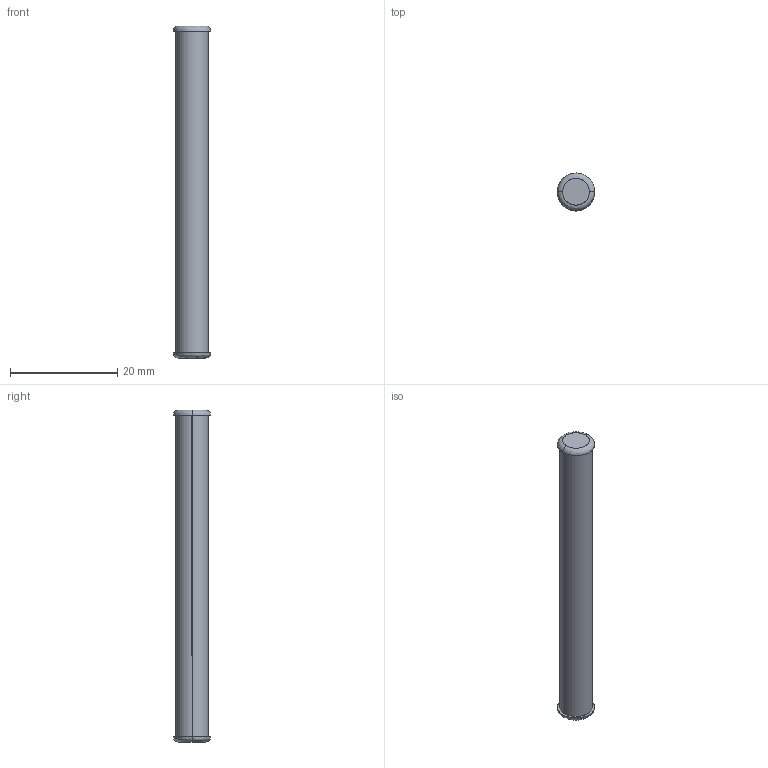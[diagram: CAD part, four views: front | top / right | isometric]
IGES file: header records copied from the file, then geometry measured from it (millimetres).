
Start section: SolidWorks IGES file using analytic representation for surfaces
Global section: file name: Z:\Mes documents\ATAO iges\Gamme CC\CC 485\axe 485.IGS; native system: SolidWorks 2013; preprocessor: SolidWorks 2013; author: cbrechard; date: 151124.181442; units: millimetre
Bounding box: 7 x 7 x 62 mm (x, y, z)
Surface area: 1252.6 mm2 (no closed solid volume)
Topology: 0 solids, 0 shells, 10 faces, 216 edges, 216 vertices
Faces by surface type: bspline 8, revolution 2
